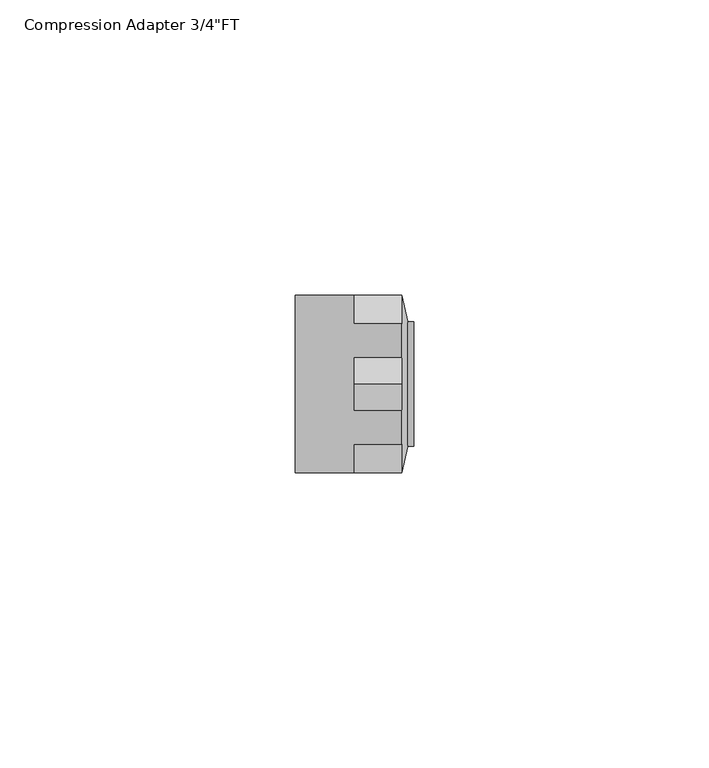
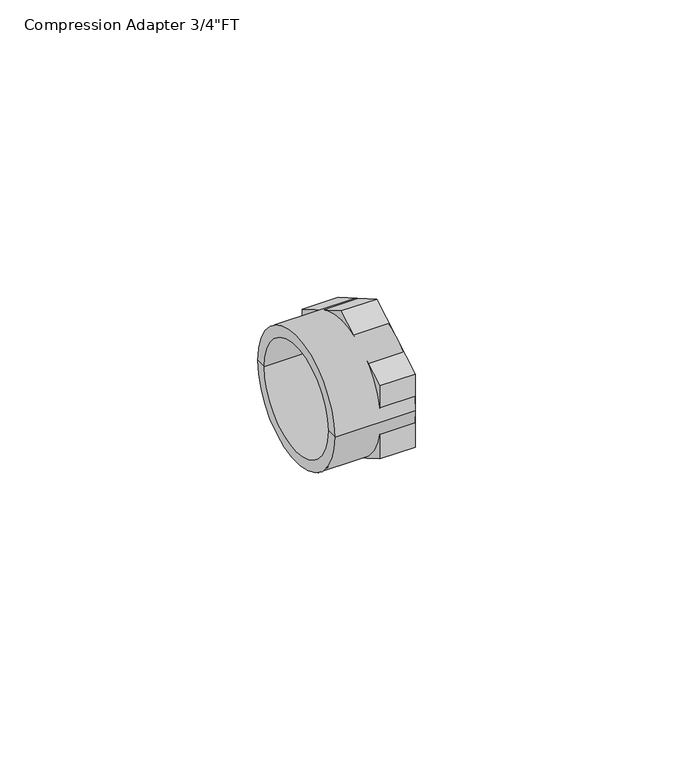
"""IFC4 building model written with IfcOpenShell, lengths in millimetres: pipe fitting geometry."""

import ifcopenshell
import ifcopenshell.guid

model = None  # the IFC model being written
_history = None  # IfcOwnerHistory: only IFC2X3 demands one
_inside = {}  # id of a spatial element -> (the spatial element, [elements in it])
_under = {}  # id of a project, library or spatial element -> (it, [spatial elements below it])
_declared = {}  # id of a project -> (the project, [libraries it declares])
_typed = {}  # id of a type object -> (the type object, [elements of that type])
_made_of = {}  # id of a material, layer set ... -> (it, [elements and type objects made of it])


def new_model(schema):
    """Start an empty IFC model of exactly this schema.

    Asked for "IFC4X3", IfcOpenShell would pick the latest addendum, in which some entities
    have other attributes; the version numbers below select the first issue.
    IFC2X3 requires an IfcOwnerHistory on every rooted entity: one is made here for all.
    """
    global model, _history
    if schema == "IFC4X3":
        model = ifcopenshell.file(schema_version=(4, 3, 0, 0))
    else:
        model = ifcopenshell.file(schema=schema)
    _inside.clear()
    _under.clear()
    _declared.clear()
    _typed.clear()
    _made_of.clear()
    _history = None
    if model.schema == "IFC2X3":
        org = make("IfcOrganization", Name="unknown")
        user = make(
            "IfcPersonAndOrganization",
            ThePerson=make("IfcPerson", FamilyName="unknown"),
            TheOrganization=org,
        )
        app = make(
            "IfcApplication",
            ApplicationDeveloper=org,
            Version="unknown",
            ApplicationFullName="unknown",
            ApplicationIdentifier="unknown",
        )
        _history = make(
            "IfcOwnerHistory",
            OwningUser=user,
            OwningApplication=app,
            ChangeAction="ADDED",
            CreationDate=0,
        )
    return model


def make(cls, **values):
    """One entity of the class cls with the attributes given. An attribute that is None is left unset."""
    return model.create_entity(
        cls, **{name: value for name, value in values.items() if value is not None}
    )


def rooted(cls, **values):
    """An entity with a GlobalId (a new one), such as an element, a storey or a relation."""
    return make(cls, GlobalId=ifcopenshell.guid.new(), OwnerHistory=_history, **values)


def si_unit(unit_type, name, prefix=None):
    """IfcSIUnit, for example si_unit("LENGTHUNIT", "METRE", prefix="MILLI")."""
    return make("IfcSIUnit", UnitType=unit_type, Prefix=prefix, Name=name)


def assignment(units):
    """IfcUnitAssignment: the units of a project."""
    return None if units is None else make("IfcUnitAssignment", Units=units)


def point(xyz):
    """IfcCartesianPoint."""
    return None if xyz is None else make("IfcCartesianPoint", Coordinates=xyz)


def direction(xyz):
    """IfcDirection."""
    return None if xyz is None else make("IfcDirection", DirectionRatios=xyz)


def frame(location, z_axis=None, x_axis=None):
    """IfcAxis2Placement3D, a coordinate frame: its origin and axes. An axis left out is left unset."""
    return make(
        "IfcAxis2Placement3D",
        Location=point(location),
        Axis=direction(z_axis),
        RefDirection=direction(x_axis),
    )


def frame_2d(location, x_axis=None):
    """IfcAxis2Placement2D, a coordinate frame in the plane: its origin and x axis."""
    return make(
        "IfcAxis2Placement2D", Location=point(location), RefDirection=direction(x_axis)
    )


def origin():
    """The frame at (0, 0, 0) with its axes left unset."""
    return frame((0.0, 0.0, 0.0))


def origin_2d():
    """The frame at (0, 0) in the plane with its x axis left unset."""
    return frame_2d((0.0, 0.0))


def place(relative_to, where):
    """IfcLocalPlacement: puts the frame where relative to a parent placement (None: the world)."""
    return make(
        "IfcLocalPlacement", PlacementRelTo=relative_to, RelativePlacement=where
    )


def context(
    kind, dimensions, precision=None, world=None, true_north=None, identifier=None
):
    """IfcGeometricRepresentationContext, for example the 3D "Model" context."""
    return make(
        "IfcGeometricRepresentationContext",
        ContextIdentifier=identifier,
        ContextType=kind,
        CoordinateSpaceDimension=dimensions,
        Precision=precision,
        WorldCoordinateSystem=world,
        TrueNorth=true_north,
    )


def project(units=None, contexts=None):
    """IfcProject with its units and contexts."""
    return rooted(
        "IfcProject",
        Name="project",
        RepresentationContexts=contexts,
        UnitsInContext=assignment(units),
    )


def spatial(cls, under=None, at=None, **own):
    """A site, building, storey or space (cls), placed at a placement, below another one or the project."""
    s = rooted(cls, ObjectPlacement=at, **own)
    if under is not None:
        _under.setdefault(under.id(), (under, []))[1].append(s)
    return s


def polyline(points):
    """IfcPolyline through the points."""
    return make("IfcPolyline", Points=[point(p) for p in points])


def circle_curve(where, radius):
    """IfcCircle in the frame where."""
    return make("IfcCircle", Position=where, Radius=radius)


def trimmed(basis, trim1, trim2, sense, master):
    """IfcTrimmedCurve: the piece of a basis curve between two trims."""
    return make(
        "IfcTrimmedCurve",
        BasisCurve=basis,
        Trim1=trim1,
        Trim2=trim2,
        SenseAgreement=sense,
        MasterRepresentation=master,
    )


def segment(curve, same_sense, transition):
    """IfcCompositeCurveSegment."""
    return make(
        "IfcCompositeCurveSegment",
        Transition=transition,
        SameSense=same_sense,
        ParentCurve=curve,
    )


def composite_curve(segments, self_intersect=None):
    """IfcCompositeCurve: segments joined end to end."""
    return make("IfcCompositeCurve", Segments=segments, SelfIntersect=self_intersect)


def outline(outer, holes=None, kind="AREA"):
    """IfcArbitraryClosedProfileDef: a profile drawn as a closed curve; with holes, ...WithVoids."""
    if holes is None:
        return make("IfcArbitraryClosedProfileDef", ProfileType=kind, OuterCurve=outer)
    return make(
        "IfcArbitraryProfileDefWithVoids",
        ProfileType=kind,
        OuterCurve=outer,
        InnerCurves=holes,
    )


def extrude(swept, where, along, depth):
    """IfcExtrudedAreaSolid: the profile swept, set in the frame where, extruded along a direction by depth."""
    return make(
        "IfcExtrudedAreaSolid",
        SweptArea=swept,
        Position=where,
        ExtrudedDirection=direction(along),
        Depth=depth,
    )


def shape(context_of_items, identifier, shape_type, items):
    """IfcShapeRepresentation: the items that make up one representation, for example the "Body"."""
    return make(
        "IfcShapeRepresentation",
        ContextOfItems=context_of_items,
        RepresentationIdentifier=identifier,
        RepresentationType=shape_type,
        Items=items,
    )


def source(mapping_origin, context_of_items, identifier, shape_type, items):
    """IfcRepresentationMap: a shape defined once, which mapped items show again and again."""
    return make(
        "IfcRepresentationMap",
        MappingOrigin=mapping_origin,
        MappedRepresentation=shape(context_of_items, identifier, shape_type, items),
    )


def transform(
    local_origin,
    x_axis=None,
    y_axis=None,
    z_axis=None,
    scale=None,
    scale2=None,
    scale3=None,
    uniform=True,
):
    """IfcCartesianTransformationOperator3D, or its non-uniform kind. x_axis, y_axis, z_axis: its Axis1, 2, 3."""
    if uniform:
        return make(
            "IfcCartesianTransformationOperator3D",
            Axis1=direction(x_axis),
            Axis2=direction(y_axis),
            LocalOrigin=point(local_origin),
            Scale=scale,
            Axis3=direction(z_axis),
        )
    return make(
        "IfcCartesianTransformationOperator3DnonUniform",
        Axis1=direction(x_axis),
        Axis2=direction(y_axis),
        LocalOrigin=point(local_origin),
        Scale=scale,
        Axis3=direction(z_axis),
        Scale2=scale2,
        Scale3=scale3,
    )


def mapped(mapping_source, mapping_target):
    """IfcMappedItem: shows the shape of a source again, moved by a transform."""
    return make(
        "IfcMappedItem", MappingSource=mapping_source, MappingTarget=mapping_target
    )


def made_of(thing, what):
    """Note that an element or type object is made of a material, layer set ...; save() writes the relation."""
    if what is not None:
        _made_of.setdefault(what.id(), (what, []))[1].append(thing)
    return thing


def element(
    cls,
    number,
    at=None,
    inside=None,
    cuts=None,
    type_object=None,
    material=None,
    context=None,
    identifier="Body",
    shape_type=None,
    held_by="IfcProductDefinitionShape",
    body=None,
    shapes=None,
    **own,
):
    """One element of the class cls, such as IfcWall. Its Tag is "e" and its number.

    at: its placement. inside: the storey or other place that contains it. cuts: it is an
    opening in that element (IfcRelVoidsElement). A single representation is given by context,
    identifier, shape_type and body (its items); several are given by shapes. held_by: the class
    of the entity that holds the representations. save() writes the other relations.
    """
    e = rooted(cls, Tag="e%d" % number, ObjectPlacement=at, **own)
    if body is not None:
        shapes = [shape(context, identifier, shape_type, body)]
    if shapes is not None:
        e.Representation = make(held_by, Representations=shapes)
    if inside is not None:
        _inside.setdefault(inside.id(), (inside, []))[1].append(e)
    if cuts is not None:
        rooted(
            "IfcRelVoidsElement", RelatingBuildingElement=cuts, RelatedOpeningElement=e
        )
    if type_object is not None:
        _typed.setdefault(type_object.id(), (type_object, []))[1].append(e)
    return made_of(e, material)


def aggregate(whole, parts):
    """IfcRelAggregates: a whole, such as a stair, and the parts it consists of."""
    return rooted("IfcRelAggregates", RelatingObject=whole, RelatedObjects=parts)


def save(model, path):
    """Write the relations noted so far, then the file.

    IfcRelAggregates (storeys below a building ...), IfcRelContainedInSpatialStructure (elements
    in a storey), IfcRelDefinesByType, IfcRelAssociatesMaterial and IfcRelDeclares: one each for
    every whole, place, type object, material and project.
    """
    for whole, parts in _under.values():
        aggregate(whole, parts)
    for where, things in _inside.values():
        rooted(
            "IfcRelContainedInSpatialStructure",
            RelatedElements=things,
            RelatingStructure=where,
        )
    for kind, things in _typed.values():
        rooted("IfcRelDefinesByType", RelatedObjects=things, RelatingType=kind)
    for what, things in _made_of.values():
        rooted("IfcRelAssociatesMaterial", RelatedObjects=things, RelatingMaterial=what)
    for by, libraries in _declared.values():
        rooted("IfcRelDeclares", RelatingContext=by, RelatedDefinitions=libraries)
    model.write(path)


def plane_surface(at):
    """IfcPlane: the flat surface through the origin of the frame at, square to its z axis."""
    return make("IfcPlane", Position=at)


def cylinder_surface(at, radius):
    """IfcCylindricalSurface: all points at the distance radius from the z axis of the frame at."""
    return make("IfcCylindricalSurface", Position=at, Radius=radius)


def revolved_surface(curve, axis_point, axis_direction):
    """IfcSurfaceOfRevolution: the curve turned about the line through axis_point along axis_direction."""
    return make(
        "IfcSurfaceOfRevolution",
        SweptCurve=make("IfcArbitraryOpenProfileDef", ProfileType="CURVE", Curve=curve),
        AxisPosition=make("IfcAxis1Placement", Location=point(axis_point), Axis=direction(axis_direction)),
    )


def advanced_brep(points, edges, surfaces, faces):
    """IfcAdvancedBrep: a solid bounded by faces that lie on surfaces and meet in shared edges.

    An edge is (start, end): straight between two places in points (the first is 0);
    or (start, end, curve); or (start, end, curve, False) where it runs against its curve.
    A face is (place in surfaces, loops), or (place, loops, False) where it looks against
    its surface's normal. A loop lists edges by number (the first is 1), with a minus sign
    where the edge is run from its end to its start. The first loop is the outer one.
    """
    corners = [point(p) for p in points]
    vertices = [make("IfcVertexPoint", VertexGeometry=c) for c in corners]
    made = []
    for start, end, *more in edges:
        made.append(
            make(
                "IfcEdgeCurve",
                EdgeStart=vertices[start],
                EdgeEnd=vertices[end],
                EdgeGeometry=more[0] if more else make("IfcPolyline", Points=[corners[start], corners[end]]),
                SameSense=more[1] if len(more) > 1 else True,
            )
        )
    hull = []
    for where, loops, *sense in faces:
        bounds = []
        for j, loop in enumerate(loops):
            ring = [make("IfcOrientedEdge", EdgeElement=made[abs(k) - 1], Orientation=k > 0) for k in loop]
            bounds.append(
                make(
                    "IfcFaceOuterBound" if j == 0 else "IfcFaceBound",
                    Bound=make("IfcEdgeLoop", EdgeList=ring),
                    Orientation=True,
                )
            )
        hull.append(make("IfcAdvancedFace", Bounds=bounds, FaceSurface=surfaces[where], SameSense=sense[0] if sense else True))
    return make("IfcAdvancedBrep", Outer=make("IfcClosedShell", CfsFaces=hull))


def pipe_fitting_d8af90f1(model_context):
    return source(origin(), model_context, "Body", "SolidModel", [
        advanced_brep(
        [(16.5, -12.5, 0.0), (16.5, 12.5, 0.0), (0.0, 12.5, 0.0), (0.0, -12.5, 0.0), (19.0, -8.0, 0.0), (19.0, 8.0, 0.0), (20.0, -8.0, 0.0), (20.0, 8.0, 0.0), (20.0, -10.5, 0.0), (20.0, 10.5, 0.0), (19.0, -10.5, 0.0), (19.0, 10.5, 0.0), (18.0, -15.0, 0.0), (18.0, 15.0, 0.0), (0.0, -15.0, 0.0), (0.0, 15.0, 0.0)],
        [
            (0, 1, circle_curve(frame((16.5, 0.0, 0.0), z_axis=(1.0, 0.0, 0.0), x_axis=(0.0, 1.0, 0.0)), 12.5)),
            (1, 2),
            (2, 3, circle_curve(frame((0.0, 0.0, 0.0), z_axis=(-1.0, 0.0, 0.0), x_axis=(0.0, 1.0, 0.0)), 12.5)),
            (3, 0),
            (1, 0, circle_curve(frame((16.5, 0.0, 0.0), z_axis=(1.0, 0.0, 0.0), x_axis=(0.0, 1.0, 0.0)), 12.5)),
            (3, 2, circle_curve(frame((0.0, 0.0, 0.0), z_axis=(-1.0, 0.0, 0.0), x_axis=(0.0, 1.0, 0.0)), 12.5)),
            (4, 5, circle_curve(frame((19.0, 0.0, 0.0), z_axis=(1.0, 0.0, 0.0), x_axis=(0.0, 1.0, 0.0)), 8.0)),
            (5, 1),
            (0, 4),
            (5, 4, circle_curve(frame((19.0, 0.0, 0.0), z_axis=(1.0, 0.0, 0.0), x_axis=(0.0, 1.0, 0.0)), 8.0)),
            (6, 7, circle_curve(frame((20.0, 0.0, 0.0), z_axis=(1.0, 0.0, 0.0), x_axis=(0.0, 1.0, 0.0)), 8.0)),
            (7, 5),
            (4, 6),
            (7, 6, circle_curve(frame((20.0, 0.0, 0.0), z_axis=(1.0, 0.0, 0.0), x_axis=(0.0, 1.0, 0.0)), 8.0)),
            (8, 9, circle_curve(frame((20.0, 0.0, 0.0), z_axis=(1.0, 0.0, 0.0), x_axis=(0.0, 1.0, 0.0)), 10.5)),
            (9, 7),
            (6, 8),
            (9, 8, circle_curve(frame((20.0, 0.0, 0.0), z_axis=(1.0, 0.0, 0.0), x_axis=(0.0, 1.0, 0.0)), 10.5)),
            (10, 11, circle_curve(frame((19.0, 0.0, 0.0), z_axis=(1.0, 0.0, 0.0), x_axis=(0.0, 1.0, 0.0)), 10.5)),
            (11, 9),
            (8, 10),
            (11, 10, circle_curve(frame((19.0, 0.0, 0.0), z_axis=(1.0, 0.0, 0.0), x_axis=(0.0, 1.0, 0.0)), 10.5)),
            (12, 13, circle_curve(frame((18.0, 0.0, 0.0), z_axis=(1.0, 0.0, 0.0), x_axis=(0.0, 1.0, 0.0)), 15.0)),
            (13, 11),
            (10, 12),
            (13, 12, circle_curve(frame((18.0, 0.0, 0.0), z_axis=(1.0, 0.0, 0.0), x_axis=(0.0, 1.0, 0.0)), 15.0)),
            (14, 15, circle_curve(frame((0.0, 0.0, 0.0), z_axis=(1.0, 0.0, 0.0), x_axis=(0.0, 1.0, 0.0)), 15.0)),
            (15, 13),
            (12, 14),
            (15, 14, circle_curve(frame((0.0, 0.0, 0.0), z_axis=(1.0, 0.0, 0.0), x_axis=(0.0, 1.0, 0.0)), 15.0)),
            (2, 15),
            (14, 3),
        ],
        [
            revolved_surface(polyline([(0.0, 12.5, 0.0), (16.5, 12.5, 0.0)]), (1998.0, 0.0, 0.0), (-1.0, 0.0, 0.0)),
            revolved_surface(polyline([(16.5, 12.5, 0.0), (19.0, 8.0, 0.0)]), (1998.0, 0.0, 0.0), (-1.0, 0.0, 0.0)),
            revolved_surface(polyline([(19.0, 8.0, 0.0), (20.0, 8.0, 0.0)]), (1998.0, 0.0, 0.0), (-1.0, 0.0, 0.0)),
            plane_surface(frame((20.0, 0.0, 0.0), z_axis=(1.0, 0.0, 0.0), x_axis=(0.0, 1.0, 0.0))),
            cylinder_surface(frame((1998.0, 0.0, 0.0), z_axis=(-1.0, 0.0, 0.0), x_axis=(0.0, 1.0, 0.0)), 10.5),
            revolved_surface(polyline([(19.0, 10.5, 0.0), (18.0, 15.0, 0.0)]), (1998.0, 0.0, 0.0), (-1.0, 0.0, 0.0)),
            cylinder_surface(frame((1998.0, 0.0, 0.0), z_axis=(-1.0, 0.0, 0.0), x_axis=(0.0, 1.0, 0.0)), 15.0),
            plane_surface(frame((0.0, 0.0, 0.0), z_axis=(-1.0, 0.0, 0.0), x_axis=(0.0, 1.0, 0.0))),
        ],
        [
            (0, [[1, 2, 3, 4]]),
            (0, [[5, -4, 6, -2]]),
            (1, [[7, 8, -1, 9]]),
            (1, [[10, -9, -5, -8]]),
            (2, [[11, 12, -7, 13]]),
            (2, [[14, -13, -10, -12]]),
            (3, [[15, 16, -11, 17]]),
            (3, [[18, -17, -14, -16]]),
            (4, [[19, 20, -15, 21]]),
            (4, [[22, -21, -18, -20]]),
            (5, [[23, 24, -19, 25]]),
            (5, [[26, -25, -22, -24]]),
            (6, [[27, 28, -23, 29]]),
            (6, [[30, -29, -26, -28]]),
            (7, [[-3, 31, -27, 32]]),
            (7, [[-6, -32, -30, -31]]),
        ],
    ),
        extrude(outline(polyline([(0.0, 17.3205081), (15.0, 8.660254), (15.0, -8.660254), (0.0, -17.3205081), (-15.0, -8.660254), (-15.0, 8.660254), (0.0, 17.3205081)]), holes=[composite_curve([segment(trimmed(circle_curve(origin_2d(), 12.5), [point((-12.5, 0.0))], [point((12.5, 0.0))], True, "CARTESIAN"), True, "CONTINUOUS"), segment(trimmed(circle_curve(origin_2d(), 12.5), [point((12.5, 0.0))], [point((-12.5, 0.0))], True, "CARTESIAN"), True, "CONTINUOUS")], self_intersect=False)]), frame((10.0, 0.0, 0.0), z_axis=(1.0, 0.0, 0.0), x_axis=(0.0, 1.0, 0.0)), (0.0, 0.0, 1.0), 8.0),
    ])


if __name__ == "__main__":
    model = new_model("IFC4")
    model_context = context("Model", 3, world=origin())
    ifc_project = project(units=[si_unit("LENGTHUNIT", "METRE", prefix="MILLI")], contexts=[model_context])
    site = spatial("IfcSite", under=ifc_project)
    building = spatial("IfcBuilding", under=site)
    placement = place(None, origin())
    pipe_fitting_shape = pipe_fitting_d8af90f1(model_context)
    element("IfcPipeFitting", 1, ObjectType="Compression Adapter 3/4\"FT : Superpipe Compression Adapter", at=placement, inside=building, context=model_context, shape_type="MappedRepresentation", body=[
        mapped(pipe_fitting_shape, transform((0.0, 0.0, 0.0), x_axis=(1.0, 0.0, 0.0), y_axis=(0.0, 1.0, 0.0), z_axis=(0.0, 0.0, 1.0))),
    ])
    save(model, "model.ifc")
